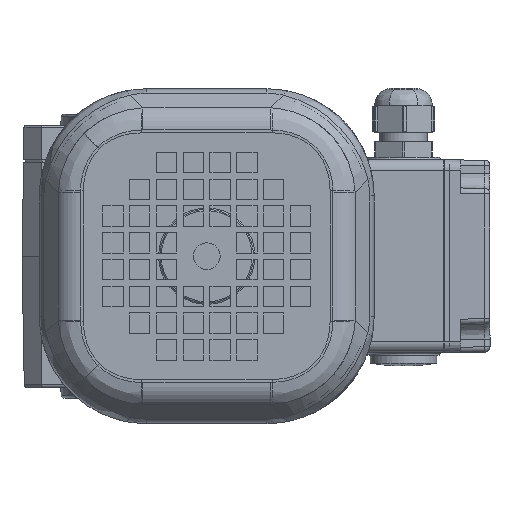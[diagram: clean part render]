
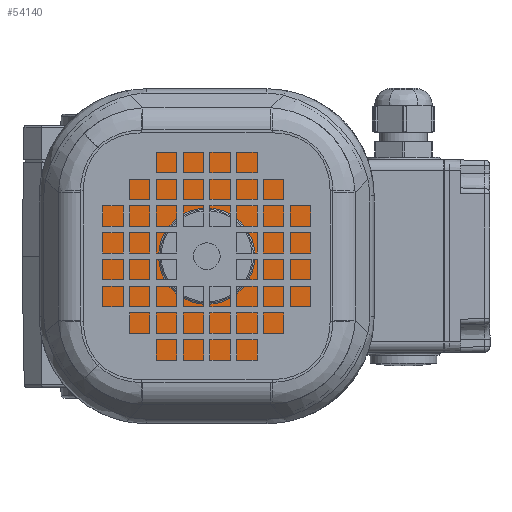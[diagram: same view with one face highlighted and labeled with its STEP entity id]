
A CAD part, left-side view. The second image highlights one B-rep face of the part: STEP entity #54140.
In plain terms, the highlighted planar face has unit normal (-1, 0, 0) as drawn and (0, 0, 1) by its records, which use the part's own axes.
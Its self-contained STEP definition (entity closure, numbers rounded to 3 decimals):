
#2283 = EDGE_CURVE ( 'NONE', #13919, #13919, #21045, .T. ) ;
#2332 = EDGE_LOOP ( 'NONE', ( #50727 ) ) ;
#2403 = CIRCLE ( 'NONE', #22222, 18. ) ;
#2805 = CARTESIAN_POINT ( 'NONE',  ( -20.15, 36.806, 16. ) ) ;
#3693 = AXIS2_PLACEMENT_3D ( 'NONE', #50287, #35852, #16446 ) ;
#3831 = VERTEX_POINT ( 'NONE', #23259 ) ;
#4321 = DIRECTION ( 'NONE',  ( 0., 0., -1. ) ) ;
#5744 = FACE_BOUND ( 'NONE', #59216, .T. ) ;
#6346 = EDGE_CURVE ( 'NONE', #23871, #23871, #12919, .T. ) ;
#6493 = ORIENTED_EDGE ( 'NONE', *, *, #10083, .T. ) ;
#8262 = ORIENTED_EDGE ( 'NONE', *, *, #2283, .T. ) ;
#9739 = DIRECTION ( 'NONE',  ( 1., 0., 0. ) ) ;
#10083 = EDGE_CURVE ( 'NONE', #3831, #3831, #2403, .T. ) ;
#11790 = AXIS2_PLACEMENT_3D ( 'NONE', #60678, #54875, #55092 ) ;
#12919 = CIRCLE ( 'NONE', #11790, 47.05 ) ;
#13853 = DIRECTION ( 'NONE',  ( 1., 0., 0. ) ) ;
#13919 = VERTEX_POINT ( 'NONE', #2805 ) ;
#15313 = ORIENTED_EDGE ( 'NONE', *, *, #6346, .T. ) ;
#16151 = VERTEX_POINT ( 'NONE', #45838 ) ;
#16446 = DIRECTION ( 'NONE',  ( 1., 0., 0. ) ) ;
#17663 = DIRECTION ( 'NONE',  ( 1., 0., 0. ) ) ;
#19450 = DIRECTION ( 'NONE',  ( 0., 0., 1. ) ) ;
#21045 = CIRCLE ( 'NONE', #3693, 1.1 ) ;
#21950 = FACE_OUTER_BOUND ( 'NONE', #54803, .T. ) ;
#22222 = AXIS2_PLACEMENT_3D ( 'NONE', #62015, #27076, #17663 ) ;
#22398 = AXIS2_PLACEMENT_3D ( 'NONE', #58833, #4321, #9739 ) ;
#23259 = CARTESIAN_POINT ( 'NONE',  ( 18., 0., 16. ) ) ;
#23871 = VERTEX_POINT ( 'NONE', #48945 ) ;
#24752 = AXIS2_PLACEMENT_3D ( 'NONE', #63833, #19450, #34323 ) ;
#24998 = PLANE ( 'NONE',  #24752 ) ;
#27076 = DIRECTION ( 'NONE',  ( 0., 0., -1. ) ) ;
#29133 = CIRCLE ( 'NONE', #56739, 1.1 ) ;
#31214 = FACE_BOUND ( 'NONE', #57996, .T. ) ;
#34323 = DIRECTION ( 'NONE',  ( 1., 0., 0. ) ) ;
#35361 = CARTESIAN_POINT ( 'NONE',  ( -20.15, -36.806, 16. ) ) ;
#35852 = DIRECTION ( 'NONE',  ( 0., 0., -1. ) ) ;
#37684 = VERTEX_POINT ( 'NONE', #35361 ) ;
#37792 = CIRCLE ( 'NONE', #22398, 1.1 ) ;
#40087 = DIRECTION ( 'NONE',  ( 0., 0., -1. ) ) ;
#41255 = EDGE_LOOP ( 'NONE', ( #57464 ) ) ;
#43500 = FACE_BOUND ( 'NONE', #41255, .T. ) ;
#45838 = CARTESIAN_POINT ( 'NONE',  ( 43.6, 0., 16. ) ) ;
#48717 = CARTESIAN_POINT ( 'NONE',  ( 42.5, 0., 16. ) ) ;
#48945 = CARTESIAN_POINT ( 'NONE',  ( -47.05, 0., 16. ) ) ;
#50287 = CARTESIAN_POINT ( 'NONE',  ( -21.25, 36.806, 16. ) ) ;
#50727 = ORIENTED_EDGE ( 'NONE', *, *, #59217, .T. ) ;
#54140 = ADVANCED_FACE ( 'NONE', ( #5744, #21950, #31214, #56595, #43500 ), #24998, .T. ) ;
#54803 = EDGE_LOOP ( 'NONE', ( #15313 ) ) ;
#54875 = DIRECTION ( 'NONE',  ( 0., 0., 1. ) ) ;
#55092 = DIRECTION ( 'NONE',  ( -1., 0., 0. ) ) ;
#56595 = FACE_BOUND ( 'NONE', #2332, .T. ) ;
#56739 = AXIS2_PLACEMENT_3D ( 'NONE', #48717, #40087, #13853 ) ;
#57464 = ORIENTED_EDGE ( 'NONE', *, *, #57874, .T. ) ;
#57874 = EDGE_CURVE ( 'NONE', #37684, #37684, #37792, .T. ) ;
#57996 = EDGE_LOOP ( 'NONE', ( #8262 ) ) ;
#58833 = CARTESIAN_POINT ( 'NONE',  ( -21.25, -36.806, 16. ) ) ;
#59216 = EDGE_LOOP ( 'NONE', ( #6493 ) ) ;
#59217 = EDGE_CURVE ( 'NONE', #16151, #16151, #29133, .T. ) ;
#60678 = CARTESIAN_POINT ( 'NONE',  ( 0., 0., 16. ) ) ;
#62015 = CARTESIAN_POINT ( 'NONE',  ( 0., 0., 16. ) ) ;
#63833 = CARTESIAN_POINT ( 'NONE',  ( 0., 0., 16. ) ) ;
